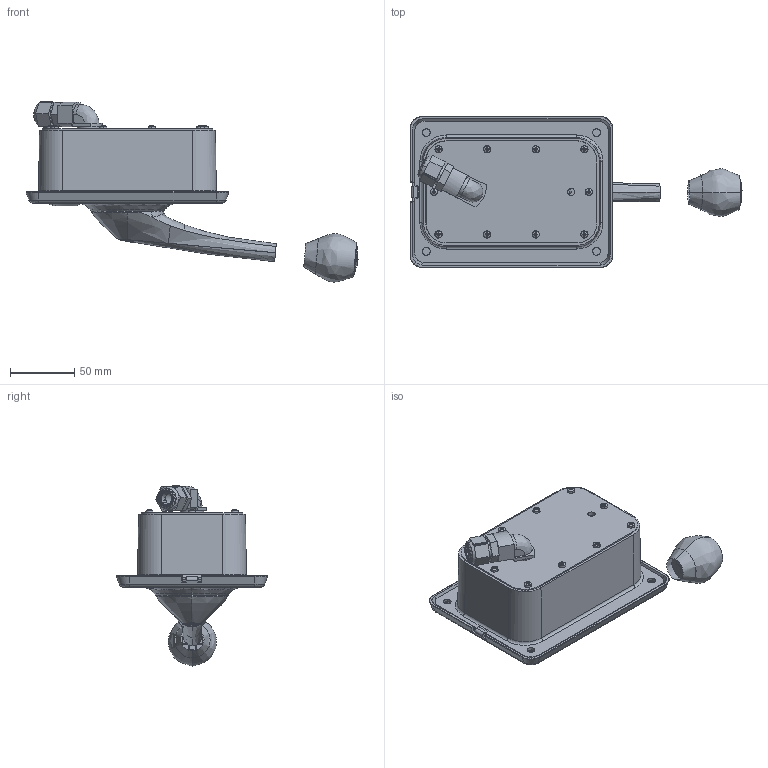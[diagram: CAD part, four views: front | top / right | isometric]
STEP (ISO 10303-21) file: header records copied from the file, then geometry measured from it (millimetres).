
FILE_DESCRIPTION((''),'2;1');
FILE_NAME('164000-41110_CH_SIDEMOUNT_ASM','2020-08-19T',('ib46307'),('YANMAR CO., LTD.'),'PRO/ENGINEER BY PARAMETRIC TECHNOLOGY CORPORATION, 2017170','PRO/ENGINEER BY PARAMETRIC TECHNOLOGY CORPORATION, 2017170','');
FILE_SCHEMA(('CONFIG_CONTROL_DESIGN'));
Products named in the file (22): PRT0157; PRT0158; PRT0159; ASM0012_ASM; PRT0160; PRT0161; PRT0162; ASM0014_ASM; PRT0163; PRT0164; PRT0165; PRT0166; ASM0013_ASM; PRT0167; PRT0168; PRT0169; PRT0170; PRT0171; PRT0172; PRT0173; PRT0174; 164000-41110_CH_SIDEMOUNT_ASM
Assembly tree (31 placements, depth 4):
  164000-41110_CH_SIDEMOUNT_ASM
    ASM0012_ASM
      PRT0157
      PRT0158
      PRT0159
    PRT0160
    ASM0013_ASM
      ASM0014_ASM
        PRT0161
        PRT0162
      PRT0163
      PRT0164
      PRT0165
      PRT0166
    PRT0167
    PRT0168
    PRT0169
    PRT0170
    PRT0171
    PRT0172  x2
    PRT0173
    PRT0174  x10
Bounding box: 257.43 x 117.28 x 139.73 mm (x, y, z)
Volume: 331015.1 mm3; surface area: 192639.2 mm2
Topology: 26 solids, 31 shells, 1881 faces, 5037 edges, 3240 vertices
Faces by surface type: bspline 1881
Entity records: 82493 total; most frequent: CARTESIAN_POINT 55269, ORIENTED_EDGE 7832, EDGE_CURVE 3922, VERTEX_POINT 2552, B_SPLINE_CURVE_WITH_KNOTS 2508, EDGE_LOOP 1654, DIRECTION 1544, FACE_OUTER_BOUND 1499
